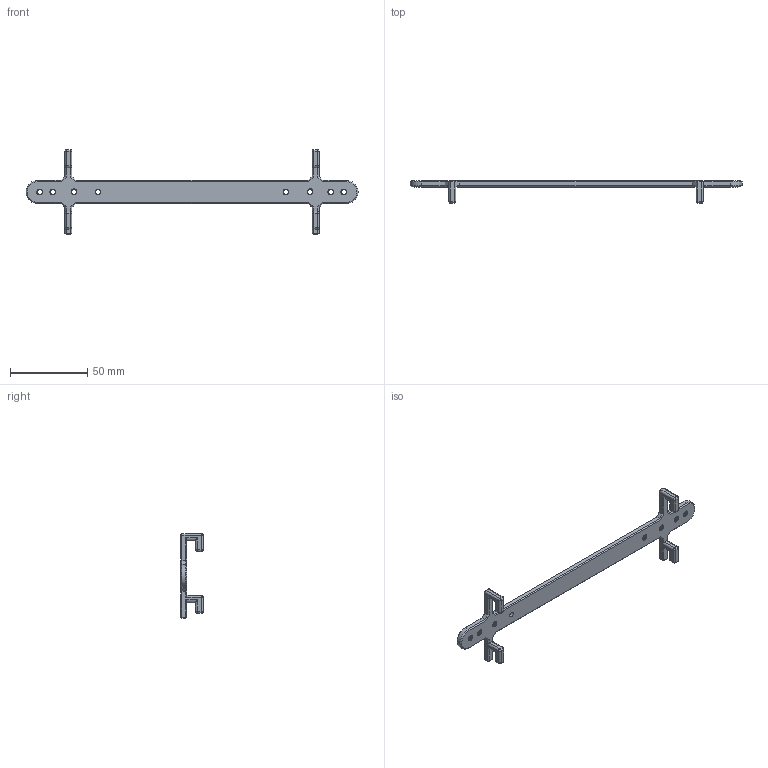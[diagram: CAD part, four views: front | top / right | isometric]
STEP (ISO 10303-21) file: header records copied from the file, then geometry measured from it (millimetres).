
FILE_DESCRIPTION(/* description */ (''),/* implementation_level */ '2;1');
FILE_NAME(/* name */ 'Fritzbox_Skadis_Halter_v4.step',/* time_stamp */ '2025-11-08T22:20:02+01:00',/* author */ (''),/* organization */ (''),/* preprocessor_version */ 'ST-DEVELOPER v20.1',/* originating_system */ 'Autodesk Translation Framework v14.17.0.0',/* authorisation */ '');
FILE_SCHEMA (('AUTOMOTIVE_DESIGN { 1 0 10303 214 3 1 1 }'));
Length unit declared in the file: millimetre
Products named in the file (1): Fritzbox 7430 Halter
Bounding box: 215 x 14.5 x 55 mm (x, y, z)
Volume: 14992.4 mm3; surface area: 10505.8 mm2
Topology: 1 solids, 1 shells, 293 faces, 794 edges, 503 vertices
Faces by surface type: cylinder 147, plane 102, sphere 22, bspline 14, cone 8
Full cylindrical faces by diameter (mm): 3.332 x31, 4.109 x15
Entity records: 21209 total; most frequent: CARTESIAN_POINT 14229, ORIENTED_EDGE 1588, DIRECTION 1239, EDGE_CURVE 794, VERTEX_POINT 503, AXIS2_PLACEMENT_3D 425, LINE 389, VECTOR 389
